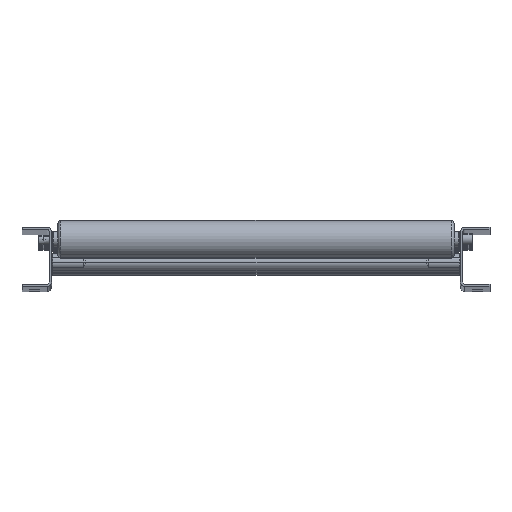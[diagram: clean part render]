
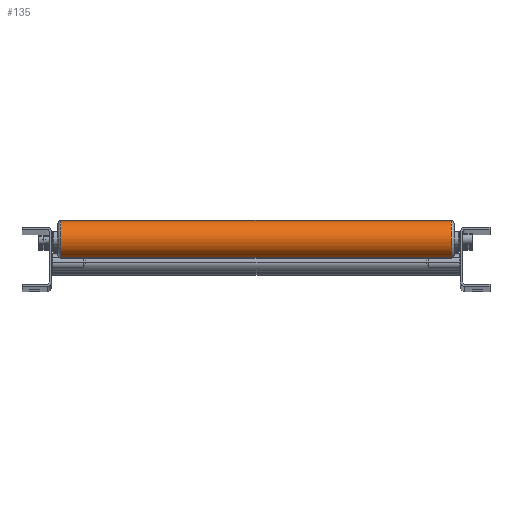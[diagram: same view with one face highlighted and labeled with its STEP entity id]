
A CAD part, top view. The second image highlights one B-rep face of the part: STEP entity #135.
In plain terms, the highlighted cylindrical face has radius 19.05 mm (diameter 38.1 mm), a partial arc.
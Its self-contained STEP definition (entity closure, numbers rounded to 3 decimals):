
#135 = ADVANCED_FACE ( 'NONE', ( #2628 ), #2653, .T. ) ;
#433 = ORIENTED_EDGE ( 'NONE', *, *, #452, .T. ) ;
#435 = ORIENTED_EDGE ( 'NONE', *, *, #473, .T. ) ;
#436 = ORIENTED_EDGE ( 'NONE', *, *, #447, .T. ) ;
#438 = ORIENTED_EDGE ( 'NONE', *, *, #475, .F. ) ;
#447 = EDGE_CURVE ( 'NONE', #5429, #5398, #5840, .T. ) ;
#452 = EDGE_CURVE ( 'NONE', #5463, #5496, #5844, .T. ) ;
#473 = EDGE_CURVE ( 'NONE', #5496, #5429, #5868, .T. ) ;
#475 = EDGE_CURVE ( 'NONE', #5463, #5398, #5874, .T. ) ;
#2628 = FACE_OUTER_BOUND ( 'NONE', #6049, .T. ) ;
#2653 = CYLINDRICAL_SURFACE ( 'NONE', #3172, 19.05 ) ;
#3172 = AXIS2_PLACEMENT_3D ( 'NONE', #3697, #3695, #3691 ) ;
#3345 = AXIS2_PLACEMENT_3D ( 'NONE', #5126, #5128, #5131 ) ;
#3347 = AXIS2_PLACEMENT_3D ( 'NONE', #5142, #5144, #5146 ) ;
#3691 = DIRECTION ( 'NONE',  ( 0., 0., 1. ) ) ;
#3695 = DIRECTION ( 'NONE',  ( -1., 0., 0. ) ) ;
#3697 = CARTESIAN_POINT ( 'NONE',  ( 402., 0., 0. ) ) ;
#5126 = CARTESIAN_POINT ( 'NONE',  ( 3., 0., 0. ) ) ;
#5128 = DIRECTION ( 'NONE',  ( 1., 0., 0. ) ) ;
#5131 = DIRECTION ( 'NONE',  ( 0., 0., -1. ) ) ;
#5142 = CARTESIAN_POINT ( 'NONE',  ( 399., 0., 0. ) ) ;
#5144 = DIRECTION ( 'NONE',  ( -1., 0., 0. ) ) ;
#5146 = DIRECTION ( 'NONE',  ( 0., 0., -1. ) ) ;
#5188 = DIRECTION ( 'NONE',  ( -1., 0., 0. ) ) ;
#5190 = CARTESIAN_POINT ( 'NONE',  ( 402., 0., -19.05 ) ) ;
#5197 = CARTESIAN_POINT ( 'NONE',  ( 402., 0., 19.05 ) ) ;
#5201 = DIRECTION ( 'NONE',  ( -1., 0., 0. ) ) ;
#5398 = VERTEX_POINT ( 'NONE', #10011 ) ;
#5429 = VERTEX_POINT ( 'NONE', #10042 ) ;
#5463 = VERTEX_POINT ( 'NONE', #10076 ) ;
#5496 = VERTEX_POINT ( 'NONE', #10109 ) ;
#5840 = CIRCLE ( 'NONE', #3345, 19.05 ) ;
#5844 = CIRCLE ( 'NONE', #3347, 19.05 ) ;
#5868 = LINE ( 'NONE', #5190, #5876 ) ;
#5874 = LINE ( 'NONE', #5197, #5880 ) ;
#5876 = VECTOR ( 'NONE', #5188, 1000. ) ;
#5880 = VECTOR ( 'NONE', #5201, 1000. ) ;
#6049 = EDGE_LOOP ( 'NONE', ( #433, #435, #436, #438 ) ) ;
#10011 = CARTESIAN_POINT ( 'NONE',  ( 3., 0., 19.05 ) ) ;
#10042 = CARTESIAN_POINT ( 'NONE',  ( 3., 0., -19.05 ) ) ;
#10076 = CARTESIAN_POINT ( 'NONE',  ( 399., 0., 19.05 ) ) ;
#10109 = CARTESIAN_POINT ( 'NONE',  ( 399., 0., -19.05 ) ) ;
